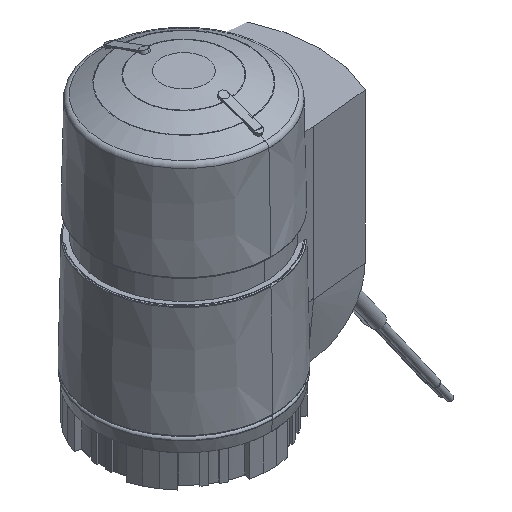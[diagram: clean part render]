
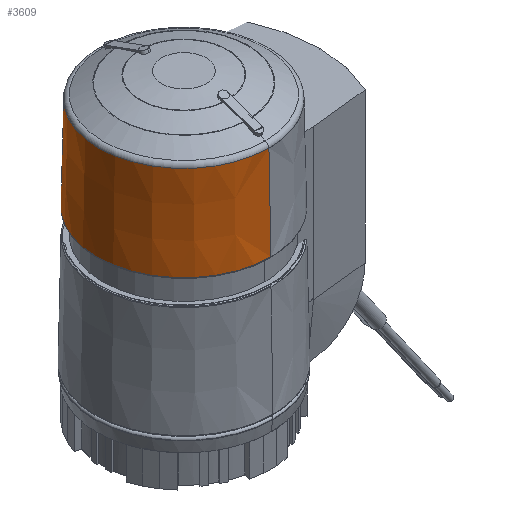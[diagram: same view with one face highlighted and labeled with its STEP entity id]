
A CAD part, isometric view. The second image highlights one B-rep face of the part: STEP entity #3609.
In plain terms, the highlighted conical face has half-angle 1.245 degrees and reference radius 21.25 mm.
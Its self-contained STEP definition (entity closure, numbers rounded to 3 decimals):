
#2881=VERTEX_POINT('',#6529);
#3055=EDGE_CURVE('',#2881,#3803,#6720,.T.);
#3137=VERTEX_POINT('',#6806);
#3525=VERTEX_POINT('',#7233);
#3609=ADVANCED_FACE('',(#7327),#7328,.T.);
#3671=EDGE_CURVE('',#3525,#3137,#7400,.T.);
#3803=VERTEX_POINT('',#7534);
#4883=EDGE_CURVE('',#2881,#3137,#8710,.T.);
#5233=EDGE_CURVE('',#3525,#3803,#9097,.T.);
#6529=CARTESIAN_POINT('',(0.,-21.5,45.413));
#6720=LINE('',#11675,#11676);
#6806=CARTESIAN_POINT('',(0.,21.5,45.413));
#7233=CARTESIAN_POINT('',(0.,21.0,68.4));
#7327=FACE_OUTER_BOUND('',#12847,.T.);
#7328=CONICAL_SURFACE('',#12848,21.25,0.022);
#7400=LINE('',#12988,#12989);
#7534=CARTESIAN_POINT('',(0.0,-21.0,68.4));
#8710=CIRCLE('',#15902,21.5);
#9097=CIRCLE('',#16658,21.0);
#11675=CARTESIAN_POINT('',(0.,-21.25,56.9));
#11676=VECTOR('',#18438,1.0);
#12847=EDGE_LOOP('',(#19135,#19136,#19137,#19138));
#12848=AXIS2_PLACEMENT_3D('',#19139,#19140,#19141);
#12988=CARTESIAN_POINT('',(0.,21.25,56.9));
#12989=VECTOR('',#19284,1.0);
#15902=AXIS2_PLACEMENT_3D('',#20608,#20609,#20610);
#16658=AXIS2_PLACEMENT_3D('',#21108,#21109,#21110);
#18438=DIRECTION('',(0.,0.022,1.));
#19135=ORIENTED_EDGE('',*,*,#3055,.T.);
#19136=ORIENTED_EDGE('',*,*,#5233,.F.);
#19137=ORIENTED_EDGE('',*,*,#3671,.T.);
#19138=ORIENTED_EDGE('',*,*,#4883,.F.);
#19139=CARTESIAN_POINT('',(0.0,0.0,56.9));
#19140=DIRECTION('',(0.0,0.0,-1.0));
#19141=DIRECTION('',(0.0,-1.0,0.0));
#19284=DIRECTION('',(0.,0.022,-1.));
#20608=CARTESIAN_POINT('',(0.0,0.0,45.413));
#20609=DIRECTION('',(0.0,0.0,-1.0));
#20610=DIRECTION('',(0.0,-1.0,0.0));
#21108=CARTESIAN_POINT('',(0.0,0.0,68.4));
#21109=DIRECTION('',(0.0,0.0,1.0));
#21110=DIRECTION('',(0.0,-1.0,0.0));
